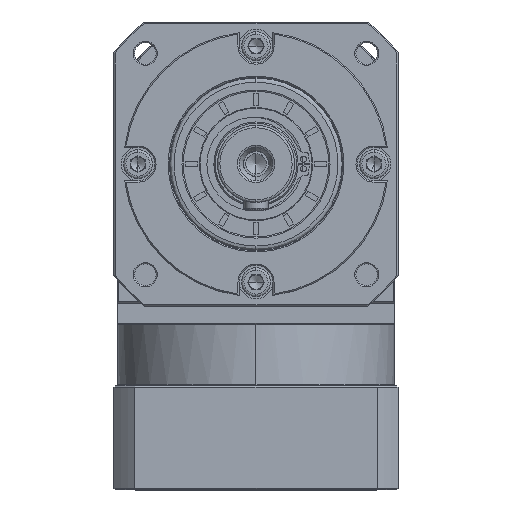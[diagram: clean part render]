
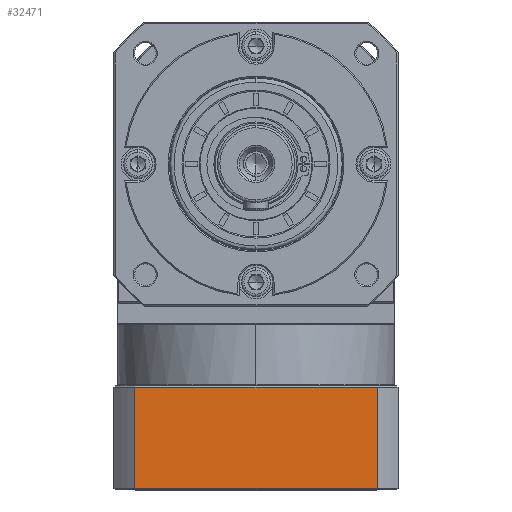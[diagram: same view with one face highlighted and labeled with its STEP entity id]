
A CAD part, top view. The second image highlights one B-rep face of the part: STEP entity #32471.
In plain terms, the highlighted planar face has unit normal (0, 0, 1).
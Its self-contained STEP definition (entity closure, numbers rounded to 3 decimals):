
#17728 = EDGE_CURVE ( 'NONE', #92512, #130326, #89232, .T. ) ;
#26021 = VECTOR ( 'NONE', #148853, 1000. ) ;
#32471 = ADVANCED_FACE ( 'NONE', ( #169048 ), #113416, .F. ) ;
#36119 = CARTESIAN_POINT ( 'NONE',  ( -271.109, -198.527, 48.844 ) ) ;
#58865 = VECTOR ( 'NONE', #153840, 1000. ) ;
#61573 = CARTESIAN_POINT ( 'NONE',  ( -271.109, -156.027, 48.844 ) ) ;
#64982 = LINE ( 'NONE', #167586, #58865 ) ;
#70025 = EDGE_CURVE ( 'NONE', #133225, #92512, #64982, .T. ) ;
#86426 = DIRECTION ( 'NONE',  ( -1., 0., 0. ) ) ;
#89216 = LINE ( 'NONE', #136821, #103778 ) ;
#89232 = LINE ( 'NONE', #36119, #93344 ) ;
#89806 = AXIS2_PLACEMENT_3D ( 'NONE', #154109, #153018, #86426 ) ;
#92512 = VERTEX_POINT ( 'NONE', #129384 ) ;
#93344 = VECTOR ( 'NONE', #126623, 1000. ) ;
#95220 = ORIENTED_EDGE ( 'NONE', *, *, #152672, .F. ) ;
#103778 = VECTOR ( 'NONE', #111090, 1000. ) ;
#109011 = CARTESIAN_POINT ( 'NONE',  ( -170.605, -198.027, 48.844 ) ) ;
#111090 = DIRECTION ( 'NONE',  ( 1., 0., 0. ) ) ;
#113416 = PLANE ( 'NONE',  #89806 ) ;
#116190 = VERTEX_POINT ( 'NONE', #122259 ) ;
#122259 = CARTESIAN_POINT ( 'NONE',  ( -170.605, -156.027, 48.844 ) ) ;
#124694 = ORIENTED_EDGE ( 'NONE', *, *, #157662, .F. ) ;
#126623 = DIRECTION ( 'NONE',  ( 0., 1., 0. ) ) ;
#129384 = CARTESIAN_POINT ( 'NONE',  ( -271.109, -198.027, 48.844 ) ) ;
#130326 = VERTEX_POINT ( 'NONE', #61573 ) ;
#133225 = VERTEX_POINT ( 'NONE', #109011 ) ;
#134697 = LINE ( 'NONE', #137247, #26021 ) ;
#134983 = ORIENTED_EDGE ( 'NONE', *, *, #17728, .F. ) ;
#136821 = CARTESIAN_POINT ( 'NONE',  ( -279.857, -156.027, 48.844 ) ) ;
#137247 = CARTESIAN_POINT ( 'NONE',  ( -170.605, 65.868, 48.844 ) ) ;
#139178 = ORIENTED_EDGE ( 'NONE', *, *, #70025, .F. ) ;
#148853 = DIRECTION ( 'NONE',  ( 0., -1., 0. ) ) ;
#152672 = EDGE_CURVE ( 'NONE', #130326, #116190, #89216, .T. ) ;
#153018 = DIRECTION ( 'NONE',  ( 0., 0., -1. ) ) ;
#153840 = DIRECTION ( 'NONE',  ( -1., 0., 0. ) ) ;
#154109 = CARTESIAN_POINT ( 'NONE',  ( -279.857, -198.527, 48.844 ) ) ;
#157662 = EDGE_CURVE ( 'NONE', #116190, #133225, #134697, .T. ) ;
#158210 = EDGE_LOOP ( 'NONE', ( #124694, #95220, #134983, #139178 ) ) ;
#167586 = CARTESIAN_POINT ( 'NONE',  ( -279.857, -198.027, 48.844 ) ) ;
#169048 = FACE_OUTER_BOUND ( 'NONE', #158210, .T. ) ;
